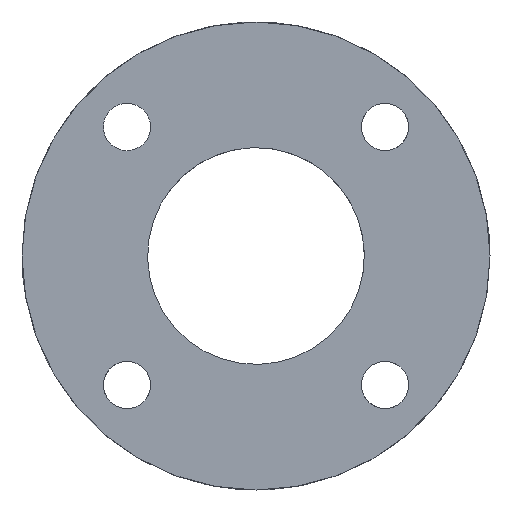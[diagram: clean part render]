
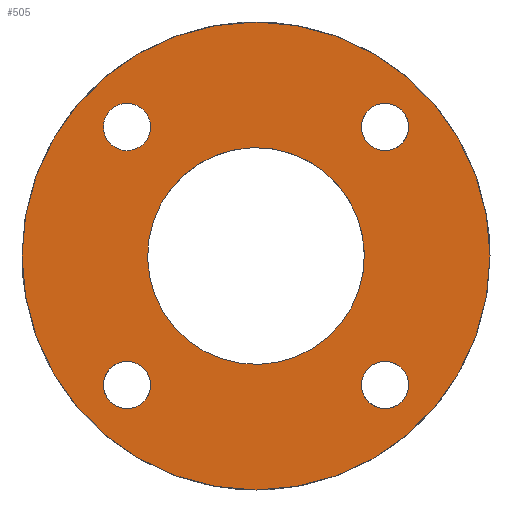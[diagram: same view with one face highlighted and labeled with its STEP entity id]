
A CAD part, left-side view. The second image highlights one B-rep face of the part: STEP entity #505.
In plain terms, the highlighted planar face has unit normal (-1, 0, 0).
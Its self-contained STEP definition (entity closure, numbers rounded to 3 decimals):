
#63=CARTESIAN_POINT('Vertex',(0.,25.225,27.415)) ;
#89=CARTESIAN_POINT('Vertex',(0.,34.879,32.689)) ;
#93=CARTESIAN_POINT('Control Point',(0.,25.225,27.415)) ;
#94=CARTESIAN_POINT('Control Point',(0.,25.64,26.657)) ;
#95=CARTESIAN_POINT('Control Point',(0.,26.203,25.98)) ;
#96=CARTESIAN_POINT('Control Point',(0.,26.893,25.424)) ;
#97=CARTESIAN_POINT('Control Point',(0.,28.456,24.612)) ;
#98=CARTESIAN_POINT('Control Point',(0.,30.209,24.451)) ;
#99=CARTESIAN_POINT('Control Point',(0.,31.091,24.546)) ;
#100=CARTESIAN_POINT('Control Point',(0.,32.77,25.076)) ;
#101=CARTESIAN_POINT('Control Point',(0.,34.124,26.203)) ;
#102=CARTESIAN_POINT('Control Point',(0.,34.68,26.893)) ;
#103=CARTESIAN_POINT('Control Point',(0.,35.492,28.456)) ;
#104=CARTESIAN_POINT('Control Point',(0.,35.653,30.209)) ;
#105=CARTESIAN_POINT('Control Point',(0.,35.558,31.091)) ;
#106=CARTESIAN_POINT('Control Point',(0.,35.293,31.931)) ;
#107=CARTESIAN_POINT('Control Point',(0.,34.879,32.689)) ;
#126=CARTESIAN_POINT('Axis2P3D Location',(0.,30.052,30.052)) ;
#406=CARTESIAN_POINT('Axis2P3D Location',(0.,0.,0.)) ;
#411=CARTESIAN_POINT('Axis2P3D Location',(0.,0.,0.)) ;
#415=CARTESIAN_POINT('Vertex',(0.,-54.5,0.)) ;
#417=CARTESIAN_POINT('Vertex',(0.,54.5,0.)) ;
#420=CARTESIAN_POINT('Axis2P3D Location',(0.,0.,0.)) ;
#433=CARTESIAN_POINT('Axis2P3D Location',(0.,0.,0.)) ;
#437=CARTESIAN_POINT('Vertex',(0.,-22.159,-12.105)) ;
#439=CARTESIAN_POINT('Vertex',(0.,22.159,12.105)) ;
#442=CARTESIAN_POINT('Axis2P3D Location',(0.,0.,0.)) ;
#451=CARTESIAN_POINT('Axis2P3D Location',(0.,-30.052,30.052)) ;
#455=CARTESIAN_POINT('Vertex',(0.,-32.689,34.879)) ;
#457=CARTESIAN_POINT('Vertex',(0.,-27.415,25.225)) ;
#460=CARTESIAN_POINT('Axis2P3D Location',(0.,-30.052,30.052)) ;
#469=CARTESIAN_POINT('Axis2P3D Location',(0.,-30.052,-30.052)) ;
#473=CARTESIAN_POINT('Vertex',(0.,-34.879,-32.689)) ;
#475=CARTESIAN_POINT('Vertex',(0.,-25.225,-27.415)) ;
#478=CARTESIAN_POINT('Axis2P3D Location',(0.,-30.052,-30.052)) ;
#487=CARTESIAN_POINT('Axis2P3D Location',(0.,30.052,-30.052)) ;
#491=CARTESIAN_POINT('Vertex',(0.,32.689,-34.879)) ;
#493=CARTESIAN_POINT('Vertex',(0.,27.415,-25.225)) ;
#496=CARTESIAN_POINT('Axis2P3D Location',(0.,30.052,-30.052)) ;
#127=DIRECTION('Axis2P3D Direction',(1.,0.,-0.)) ;
#407=DIRECTION('Axis2P3D Direction',(1.,0.,0.)) ;
#408=DIRECTION('Axis2P3D XDirection',(0.,1.,0.)) ;
#412=DIRECTION('Axis2P3D Direction',(1.,0.,0.)) ;
#421=DIRECTION('Axis2P3D Direction',(1.,0.,0.)) ;
#434=DIRECTION('Axis2P3D Direction',(1.,0.,0.)) ;
#443=DIRECTION('Axis2P3D Direction',(1.,0.,0.)) ;
#452=DIRECTION('Axis2P3D Direction',(1.,0.,0.)) ;
#461=DIRECTION('Axis2P3D Direction',(1.,0.,0.)) ;
#470=DIRECTION('Axis2P3D Direction',(1.,0.,0.)) ;
#479=DIRECTION('Axis2P3D Direction',(1.,0.,0.)) ;
#488=DIRECTION('Axis2P3D Direction',(1.,0.,0.)) ;
#497=DIRECTION('Axis2P3D Direction',(1.,0.,0.)) ;
#128=AXIS2_PLACEMENT_3D('Circle Axis2P3D',#126,#127,$) ;
#409=AXIS2_PLACEMENT_3D('Plane Axis2P3D',#406,#407,#408) ;
#413=AXIS2_PLACEMENT_3D('Circle Axis2P3D',#411,#412,$) ;
#422=AXIS2_PLACEMENT_3D('Circle Axis2P3D',#420,#421,$) ;
#435=AXIS2_PLACEMENT_3D('Circle Axis2P3D',#433,#434,$) ;
#444=AXIS2_PLACEMENT_3D('Circle Axis2P3D',#442,#443,$) ;
#453=AXIS2_PLACEMENT_3D('Circle Axis2P3D',#451,#452,$) ;
#462=AXIS2_PLACEMENT_3D('Circle Axis2P3D',#460,#461,$) ;
#471=AXIS2_PLACEMENT_3D('Circle Axis2P3D',#469,#470,$) ;
#480=AXIS2_PLACEMENT_3D('Circle Axis2P3D',#478,#479,$) ;
#489=AXIS2_PLACEMENT_3D('Circle Axis2P3D',#487,#488,$) ;
#498=AXIS2_PLACEMENT_3D('Circle Axis2P3D',#496,#497,$) ;
#426=ORIENTED_EDGE('',*,*,#419,.F.) ;
#427=ORIENTED_EDGE('',*,*,#424,.F.) ;
#430=ORIENTED_EDGE('',*,*,#108,.T.) ;
#431=ORIENTED_EDGE('',*,*,#130,.T.) ;
#448=ORIENTED_EDGE('',*,*,#441,.T.) ;
#449=ORIENTED_EDGE('',*,*,#446,.T.) ;
#466=ORIENTED_EDGE('',*,*,#459,.T.) ;
#467=ORIENTED_EDGE('',*,*,#464,.T.) ;
#484=ORIENTED_EDGE('',*,*,#477,.T.) ;
#485=ORIENTED_EDGE('',*,*,#482,.T.) ;
#502=ORIENTED_EDGE('',*,*,#495,.T.) ;
#503=ORIENTED_EDGE('',*,*,#500,.T.) ;
#432=FACE_BOUND('',#429,.T.) ;
#450=FACE_BOUND('',#447,.T.) ;
#468=FACE_BOUND('',#465,.T.) ;
#486=FACE_BOUND('',#483,.T.) ;
#504=FACE_BOUND('',#501,.T.) ;
#505=ADVANCED_FACE('TTM50',(#428,#432,#450,#468,#486,#504),#410,.F.) ;
#92=B_SPLINE_CURVE_WITH_KNOTS('',5,(#93,#94,#95,#96,#97,#98,#99,#100,#101,#102,#103,#104,#105,#106,#107),.UNSPECIFIED.,.F.,.U.,(6,3,3,3,6),(-8.639,-4.32,0.,4.32,8.639),.UNSPECIFIED.) ;
#129=CIRCLE('generated circle',#128,5.5) ;
#414=CIRCLE('generated circle',#413,54.5) ;
#423=CIRCLE('generated circle',#422,54.5) ;
#436=CIRCLE('generated circle',#435,25.25) ;
#445=CIRCLE('generated circle',#444,25.25) ;
#454=CIRCLE('generated circle',#453,5.5) ;
#463=CIRCLE('generated circle',#462,5.5) ;
#472=CIRCLE('generated circle',#471,5.5) ;
#481=CIRCLE('generated circle',#480,5.5) ;
#490=CIRCLE('generated circle',#489,5.5) ;
#499=CIRCLE('generated circle',#498,5.5) ;
#108=EDGE_CURVE('',#64,#90,#92,.T.) ;
#130=EDGE_CURVE('',#90,#64,#129,.T.) ;
#419=EDGE_CURVE('',#416,#418,#414,.T.) ;
#424=EDGE_CURVE('',#418,#416,#423,.T.) ;
#441=EDGE_CURVE('',#438,#440,#436,.T.) ;
#446=EDGE_CURVE('',#440,#438,#445,.T.) ;
#459=EDGE_CURVE('',#456,#458,#454,.T.) ;
#464=EDGE_CURVE('',#458,#456,#463,.T.) ;
#477=EDGE_CURVE('',#474,#476,#472,.T.) ;
#482=EDGE_CURVE('',#476,#474,#481,.T.) ;
#495=EDGE_CURVE('',#492,#494,#490,.T.) ;
#500=EDGE_CURVE('',#494,#492,#499,.T.) ;
#425=EDGE_LOOP('',(#426,#427)) ;
#429=EDGE_LOOP('',(#430,#431)) ;
#447=EDGE_LOOP('',(#448,#449)) ;
#465=EDGE_LOOP('',(#466,#467)) ;
#483=EDGE_LOOP('',(#484,#485)) ;
#501=EDGE_LOOP('',(#502,#503)) ;
#428=FACE_OUTER_BOUND('',#425,.T.) ;
#410=PLANE('',#409) ;
#64=VERTEX_POINT('',#63) ;
#90=VERTEX_POINT('',#89) ;
#416=VERTEX_POINT('',#415) ;
#418=VERTEX_POINT('',#417) ;
#438=VERTEX_POINT('',#437) ;
#440=VERTEX_POINT('',#439) ;
#456=VERTEX_POINT('',#455) ;
#458=VERTEX_POINT('',#457) ;
#474=VERTEX_POINT('',#473) ;
#476=VERTEX_POINT('',#475) ;
#492=VERTEX_POINT('',#491) ;
#494=VERTEX_POINT('',#493) ;
